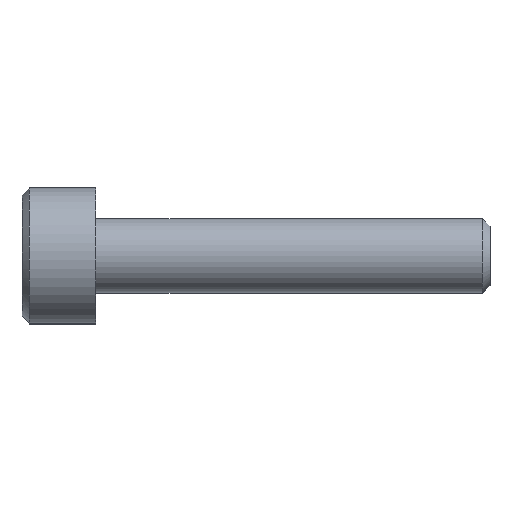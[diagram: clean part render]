
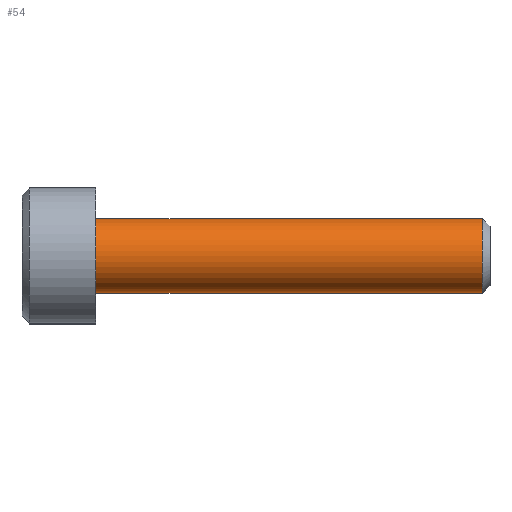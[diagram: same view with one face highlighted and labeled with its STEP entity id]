
A CAD part, top view. The second image highlights one B-rep face of the part: STEP entity #54.
In plain terms, the highlighted free-form (B-spline) face has degree [1, 2] with [2, 9] control points.
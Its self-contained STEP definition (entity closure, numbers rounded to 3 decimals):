
#54=ADVANCED_FACE('',(#79),#760,.T.);
#79=FACE_OUTER_BOUND('',#104,.T.);
#104=EDGE_LOOP('',(#195,#196,#197,#198));
#195=ORIENTED_EDGE('',*,*,#664,.F.);
#196=ORIENTED_EDGE('',*,*,#623,.F.);
#197=ORIENTED_EDGE('',*,*,#665,.T.);
#198=ORIENTED_EDGE('',*,*,#625,.F.);
#228=PCURVE('',#755,#336);
#230=PCURVE('',#755,#338);
#301=PCURVE('',#759,#409);
#303=PCURVE('',#760,#411);
#304=PCURVE('',#760,#412);
#305=PCURVE('',#760,#413);
#306=PCURVE('',#760,#414);
#310=PCURVE('',#751,#418);
#336=DEFINITIONAL_REPRESENTATION('',(#449),#1481);
#338=DEFINITIONAL_REPRESENTATION('',(#452),#1481);
#409=DEFINITIONAL_REPRESENTATION('',(#541),#1481);
#411=DEFINITIONAL_REPRESENTATION('',(#543),#1481);
#412=DEFINITIONAL_REPRESENTATION('',(#544),#1481);
#413=DEFINITIONAL_REPRESENTATION('',(#545),#1481);
#414=DEFINITIONAL_REPRESENTATION('',(#546),#1481);
#418=DEFINITIONAL_REPRESENTATION('',(#700),#1481);
#448=B_SPLINE_CURVE_WITH_KNOTS('',1,(#1124,#1125),.UNSPECIFIED.,.F.,.F.,
(2,2),(0.,15.694),.UNSPECIFIED.);
#449=B_SPLINE_CURVE_WITH_KNOTS('',1,(#1126,#1127),.UNSPECIFIED.,.F.,.F.,
(2,2),(0.,15.694),.UNSPECIFIED.);
#451=B_SPLINE_CURVE_WITH_KNOTS('',1,(#1135,#1136),.UNSPECIFIED.,.F.,.F.,
(2,2),(0.,15.694),.UNSPECIFIED.);
#452=B_SPLINE_CURVE_WITH_KNOTS('',1,(#1137,#1138),.UNSPECIFIED.,.F.,.F.,
(2,2),(0.,15.694),.UNSPECIFIED.);
#541=B_SPLINE_CURVE_WITH_KNOTS('',1,(#1388,#1389),.UNSPECIFIED.,.F.,.F.,
(2,2),(0.,4.712),.UNSPECIFIED.);
#543=B_SPLINE_CURVE_WITH_KNOTS('',1,(#1392,#1393),.UNSPECIFIED.,.F.,.F.,
(2,2),(0.,4.712),.UNSPECIFIED.);
#544=B_SPLINE_CURVE_WITH_KNOTS('',1,(#1394,#1395),.UNSPECIFIED.,.F.,.F.,
(2,2),(0.,15.694),.UNSPECIFIED.);
#545=B_SPLINE_CURVE_WITH_KNOTS('',1,(#1401,#1402),.UNSPECIFIED.,.F.,.F.,
(2,2),(0.,4.712),.UNSPECIFIED.);
#546=B_SPLINE_CURVE_WITH_KNOTS('',1,(#1403,#1404),.UNSPECIFIED.,.F.,.F.,
(2,2),(0.,15.694),.UNSPECIFIED.);
#569=SURFACE_CURVE('',#448,(#228,#304),.PCURVE_S1.);
#571=SURFACE_CURVE('',#451,(#230,#306),.PCURVE_S1.);
#610=SURFACE_CURVE('',#694,(#301,#303),.PCURVE_S1.);
#611=SURFACE_CURVE('',#695,(#305,#310),.PCURVE_S1.);
#623=EDGE_CURVE('',#714,#713,#569,.T.);
#625=EDGE_CURVE('',#712,#711,#571,.T.);
#664=EDGE_CURVE('',#713,#712,#610,.T.);
#665=EDGE_CURVE('',#714,#711,#611,.T.);
#694=(
BOUNDED_CURVE()
B_SPLINE_CURVE(2,(#1383,#1384,#1385,#1386,#1387),.UNSPECIFIED.,.F.,.F.)
B_SPLINE_CURVE_WITH_KNOTS((3,2,3),(0.,2.356,4.712),
 .UNSPECIFIED.)
CURVE()
GEOMETRIC_REPRESENTATION_ITEM()
RATIONAL_B_SPLINE_CURVE((1.,0.707,1.,0.707,1.))
REPRESENTATION_ITEM('')
);
#695=(
BOUNDED_CURVE()
B_SPLINE_CURVE(2,(#1396,#1397,#1398,#1399,#1400),.UNSPECIFIED.,.F.,.F.)
B_SPLINE_CURVE_WITH_KNOTS((3,2,3),(0.,2.356,4.712),
 .UNSPECIFIED.)
CURVE()
GEOMETRIC_REPRESENTATION_ITEM()
RATIONAL_B_SPLINE_CURVE((1.,0.707,1.,0.707,1.))
REPRESENTATION_ITEM('')
);
#700=(
BOUNDED_CURVE()
B_SPLINE_CURVE(2,(#1425,#1426,#1427,#1428,#1429),.UNSPECIFIED.,.F.,.F.)
B_SPLINE_CURVE_WITH_KNOTS((3,2,3),(0.,2.356,4.712),
 .UNSPECIFIED.)
CURVE()
GEOMETRIC_REPRESENTATION_ITEM()
RATIONAL_B_SPLINE_CURVE((1.,0.707,1.,0.707,1.))
REPRESENTATION_ITEM('')
);
#711=VERTEX_POINT('',#1051);
#712=VERTEX_POINT('',#1052);
#713=VERTEX_POINT('',#1053);
#714=VERTEX_POINT('',#1054);
#751=PLANE('',#818);
#755=(
BOUNDED_SURFACE()
B_SPLINE_SURFACE(1,2,((#886,#887,#888,#889,#890,#891,#892,#893,#894),(#895,
#896,#897,#898,#899,#900,#901,#902,#903)),.UNSPECIFIED.,.F.,.F.,.F.)
B_SPLINE_SURFACE_WITH_KNOTS((2,2),(3,2,2,2,3),(0.,18.835),(0.,1.571,
3.142,4.712,6.283),.UNSPECIFIED.)
GEOMETRIC_REPRESENTATION_ITEM()
RATIONAL_B_SPLINE_SURFACE(((1.,0.707,1.,0.707,1.,
0.707,1.,0.707,1.),(1.,0.707,1.,0.707,
1.,0.707,1.,0.707,1.)))
REPRESENTATION_ITEM('')
SURFACE()
);
#759=(
BOUNDED_SURFACE()
B_SPLINE_SURFACE(1,2,((#971,#972,#973,#974,#975,#976,#977,#978,#979),(#980,
#981,#982,#983,#984,#985,#986,#987,#988)),.UNSPECIFIED.,.F.,.F.,.F.)
B_SPLINE_SURFACE_WITH_KNOTS((2,2),(3,2,2,2,3),(0.,2.335),(0.,
1.571,3.142,4.712,6.283),
 .UNSPECIFIED.)
GEOMETRIC_REPRESENTATION_ITEM()
RATIONAL_B_SPLINE_SURFACE(((1.,0.707,1.,0.707,1.,
0.707,1.,0.707,1.),(1.,0.707,1.,0.707,
1.,0.707,1.,0.707,1.)))
REPRESENTATION_ITEM('')
SURFACE()
);
#760=(
BOUNDED_SURFACE()
B_SPLINE_SURFACE(1,2,((#989,#990,#991,#992,#993,#994,#995,#996,#997),(#998,
#999,#1000,#1001,#1002,#1003,#1004,#1005,#1006)),.UNSPECIFIED.,.F.,.F.,.F.)
B_SPLINE_SURFACE_WITH_KNOTS((2,2),(3,2,2,2,3),(0.,18.835),(0.,1.571,
3.142,4.712,6.283),.UNSPECIFIED.)
GEOMETRIC_REPRESENTATION_ITEM()
RATIONAL_B_SPLINE_SURFACE(((1.,0.707,1.,0.707,1.,
0.707,1.,0.707,1.),(1.,0.707,1.,0.707,
1.,0.707,1.,0.707,1.)))
REPRESENTATION_ITEM('')
SURFACE()
);
#818=AXIS2_PLACEMENT_3D('',#1007,#840,$);
#840=DIRECTION('',(1.,0.,0.));
#886=CARTESIAN_POINT('',(-1.571,0.,1.5));
#887=CARTESIAN_POINT('',(-1.571,1.5,1.5));
#888=CARTESIAN_POINT('',(-1.571,1.5,0.));
#889=CARTESIAN_POINT('',(-1.571,1.5,-1.5));
#890=CARTESIAN_POINT('',(-1.571,0.,-1.5));
#891=CARTESIAN_POINT('',(-1.571,-1.5,-1.5));
#892=CARTESIAN_POINT('',(-1.571,-1.5,0.));
#893=CARTESIAN_POINT('',(-1.571,-1.5,1.5));
#894=CARTESIAN_POINT('',(-1.571,0.,1.5));
#895=CARTESIAN_POINT('',(17.264,0.,1.5));
#896=CARTESIAN_POINT('',(17.264,1.5,1.5));
#897=CARTESIAN_POINT('',(17.264,1.5,0.));
#898=CARTESIAN_POINT('',(17.264,1.5,-1.5));
#899=CARTESIAN_POINT('',(17.264,0.,-1.5));
#900=CARTESIAN_POINT('',(17.264,-1.5,-1.5));
#901=CARTESIAN_POINT('',(17.264,-1.5,0.));
#902=CARTESIAN_POINT('',(17.264,-1.5,1.5));
#903=CARTESIAN_POINT('',(17.264,0.,1.5));
#971=CARTESIAN_POINT('',(17.194,0.,0.));
#972=CARTESIAN_POINT('',(17.194,0.,0.));
#973=CARTESIAN_POINT('',(17.194,0.,0.));
#974=CARTESIAN_POINT('',(17.194,0.,0.));
#975=CARTESIAN_POINT('',(17.194,0.,0.));
#976=CARTESIAN_POINT('',(17.194,0.,0.));
#977=CARTESIAN_POINT('',(17.194,0.,0.));
#978=CARTESIAN_POINT('',(17.194,0.,0.));
#979=CARTESIAN_POINT('',(17.194,0.,0.));
#980=CARTESIAN_POINT('',(15.542,0.,-1.651));
#981=CARTESIAN_POINT('',(15.542,1.651,-1.651));
#982=CARTESIAN_POINT('',(15.542,1.651,0.));
#983=CARTESIAN_POINT('',(15.542,1.651,1.651));
#984=CARTESIAN_POINT('',(15.542,0.,1.651));
#985=CARTESIAN_POINT('',(15.542,-1.651,1.651));
#986=CARTESIAN_POINT('',(15.542,-1.651,0.));
#987=CARTESIAN_POINT('',(15.542,-1.651,-1.651));
#988=CARTESIAN_POINT('',(15.542,0.,-1.651));
#989=CARTESIAN_POINT('',(-1.571,0.,-1.5));
#990=CARTESIAN_POINT('',(-1.571,-1.5,-1.5));
#991=CARTESIAN_POINT('',(-1.571,-1.5,0.));
#992=CARTESIAN_POINT('',(-1.571,-1.5,1.5));
#993=CARTESIAN_POINT('',(-1.571,0.,1.5));
#994=CARTESIAN_POINT('',(-1.571,1.5,1.5));
#995=CARTESIAN_POINT('',(-1.571,1.5,0.));
#996=CARTESIAN_POINT('',(-1.571,1.5,-1.5));
#997=CARTESIAN_POINT('',(-1.571,0.,-1.5));
#998=CARTESIAN_POINT('',(17.264,0.,-1.5));
#999=CARTESIAN_POINT('',(17.264,-1.5,-1.5));
#1000=CARTESIAN_POINT('',(17.264,-1.5,0.));
#1001=CARTESIAN_POINT('',(17.264,-1.5,1.5));
#1002=CARTESIAN_POINT('',(17.264,0.,1.5));
#1003=CARTESIAN_POINT('',(17.264,1.5,1.5));
#1004=CARTESIAN_POINT('',(17.264,1.5,0.));
#1005=CARTESIAN_POINT('',(17.264,1.5,-1.5));
#1006=CARTESIAN_POINT('',(17.264,0.,-1.5));
#1007=CARTESIAN_POINT('',(0.,-3.301,3.301));
#1051=CARTESIAN_POINT('',(0.,-1.5,0.));
#1052=CARTESIAN_POINT('',(15.694,-1.5,0.));
#1053=CARTESIAN_POINT('',(15.694,1.5,0.));
#1054=CARTESIAN_POINT('',(0.,1.5,0.));
#1124=CARTESIAN_POINT('',(0.,1.5,0.));
#1125=CARTESIAN_POINT('',(15.694,1.5,0.));
#1126=CARTESIAN_POINT('',(1.571,1.571));
#1127=CARTESIAN_POINT('',(17.264,1.571));
#1135=CARTESIAN_POINT('',(15.694,-1.5,0.));
#1136=CARTESIAN_POINT('',(0.,-1.5,0.));
#1137=CARTESIAN_POINT('',(17.264,4.712));
#1138=CARTESIAN_POINT('',(1.571,4.712));
#1383=CARTESIAN_POINT('',(15.694,1.5,0.));
#1384=CARTESIAN_POINT('',(15.694,1.5,1.5));
#1385=CARTESIAN_POINT('',(15.694,0.,1.5));
#1386=CARTESIAN_POINT('',(15.694,-1.5,1.5));
#1387=CARTESIAN_POINT('',(15.694,-1.5,0.));
#1388=CARTESIAN_POINT('',(2.121,1.571));
#1389=CARTESIAN_POINT('',(2.121,4.712));
#1392=CARTESIAN_POINT('',(17.264,4.712));
#1393=CARTESIAN_POINT('',(17.264,1.571));
#1394=CARTESIAN_POINT('',(1.571,4.712));
#1395=CARTESIAN_POINT('',(17.264,4.712));
#1396=CARTESIAN_POINT('',(0.,1.5,0.));
#1397=CARTESIAN_POINT('',(0.,1.5,1.5));
#1398=CARTESIAN_POINT('',(0.,0.,1.5));
#1399=CARTESIAN_POINT('',(0.,-1.5,1.5));
#1400=CARTESIAN_POINT('',(0.,-1.5,0.));
#1401=CARTESIAN_POINT('',(1.571,4.712));
#1402=CARTESIAN_POINT('',(1.571,1.571));
#1403=CARTESIAN_POINT('',(17.264,1.571));
#1404=CARTESIAN_POINT('',(1.571,1.571));
#1425=CARTESIAN_POINT('',(0.,3.625));
#1426=CARTESIAN_POINT('',(-1.5,3.625));
#1427=CARTESIAN_POINT('',(-1.5,2.125));
#1428=CARTESIAN_POINT('',(-1.5,0.625));
#1429=CARTESIAN_POINT('',(0.,0.625));
#1481=(
GEOMETRIC_REPRESENTATION_CONTEXT(2)
PARAMETRIC_REPRESENTATION_CONTEXT()
REPRESENTATION_CONTEXT('pspace','')
);
